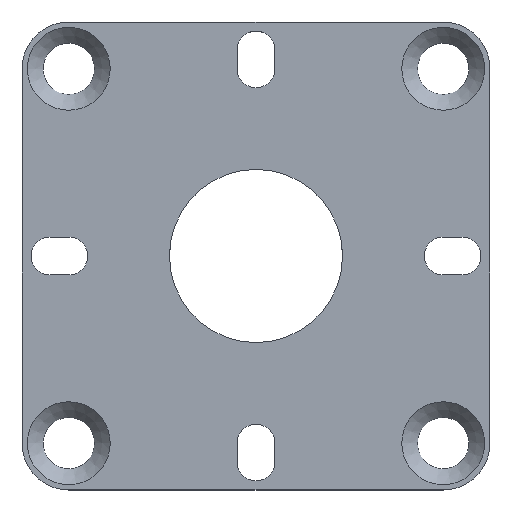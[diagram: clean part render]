
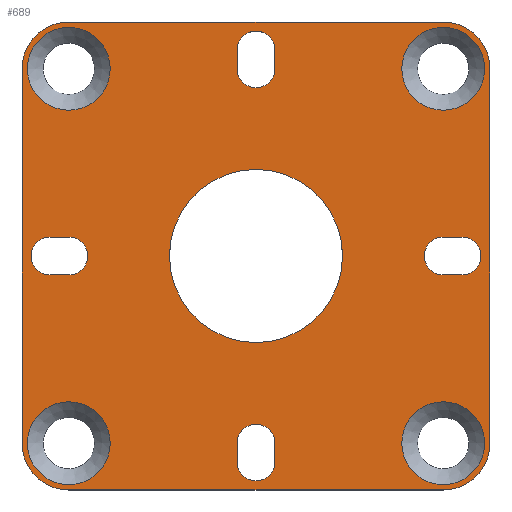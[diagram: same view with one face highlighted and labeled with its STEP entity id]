
A CAD part, top view. The second image highlights one B-rep face of the part: STEP entity #689.
In plain terms, the highlighted planar face has unit normal (0, 0, 1).
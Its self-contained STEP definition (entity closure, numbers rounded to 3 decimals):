
#28=FACE_BOUND('',#130,.T.);
#29=FACE_BOUND('',#131,.T.);
#30=FACE_BOUND('',#132,.T.);
#31=FACE_BOUND('',#133,.T.);
#32=FACE_BOUND('',#134,.T.);
#33=FACE_BOUND('',#135,.T.);
#34=FACE_BOUND('',#136,.T.);
#35=FACE_BOUND('',#137,.T.);
#36=FACE_BOUND('',#138,.T.);
#50=PLANE('',#785);
#85=FACE_OUTER_BOUND('',#129,.T.);
#129=EDGE_LOOP('',(#609,#610,#611,#612,#613,#614,#615,#616));
#130=EDGE_LOOP('',(#617));
#131=EDGE_LOOP('',(#618));
#132=EDGE_LOOP('',(#619));
#133=EDGE_LOOP('',(#620));
#134=EDGE_LOOP('',(#621,#622,#623,#624));
#135=EDGE_LOOP('',(#625,#626,#627,#628));
#136=EDGE_LOOP('',(#629,#630,#631,#632));
#137=EDGE_LOOP('',(#633,#634,#635,#636));
#138=EDGE_LOOP('',(#637));
#153=LINE('',#1059,#210);
#159=LINE('',#1074,#216);
#161=LINE('',#1080,#218);
#172=LINE('',#1121,#229);
#175=LINE('',#1128,#232);
#178=LINE('',#1137,#235);
#181=LINE('',#1144,#238);
#184=LINE('',#1153,#241);
#187=LINE('',#1160,#244);
#190=LINE('',#1169,#247);
#193=LINE('',#1176,#250);
#195=LINE('',#1182,#252);
#210=VECTOR('',#844,10.);
#216=VECTOR('',#860,10.);
#218=VECTOR('',#868,10.);
#229=VECTOR('',#917,10.);
#232=VECTOR('',#926,10.);
#235=VECTOR('',#935,10.);
#238=VECTOR('',#944,10.);
#241=VECTOR('',#953,10.);
#244=VECTOR('',#962,10.);
#247=VECTOR('',#971,10.);
#250=VECTOR('',#980,10.);
#252=VECTOR('',#988,10.);
#253=CIRCLE('',#714,10.);
#271=CIRCLE('',#735,10.);
#272=CIRCLE('',#737,10.);
#273=CIRCLE('',#740,10.);
#274=CIRCLE('',#743,8.85);
#276=CIRCLE('',#747,8.85);
#278=CIRCLE('',#751,8.85);
#280=CIRCLE('',#755,8.85);
#282=CIRCLE('',#759,4.05);
#283=CIRCLE('',#762,4.05);
#284=CIRCLE('',#765,4.05);
#285=CIRCLE('',#768,4.05);
#286=CIRCLE('',#771,4.05);
#287=CIRCLE('',#774,4.05);
#288=CIRCLE('',#777,4.05);
#289=CIRCLE('',#780,4.05);
#290=CIRCLE('',#783,18.5);
#291=VERTEX_POINT('',#993);
#292=VERTEX_POINT('',#994);
#322=VERTEX_POINT('',#1058);
#323=VERTEX_POINT('',#1062);
#324=VERTEX_POINT('',#1066);
#325=VERTEX_POINT('',#1067);
#326=VERTEX_POINT('',#1072);
#327=VERTEX_POINT('',#1076);
#328=VERTEX_POINT('',#1082);
#330=VERTEX_POINT('',#1090);
#332=VERTEX_POINT('',#1098);
#334=VERTEX_POINT('',#1106);
#336=VERTEX_POINT('',#1114);
#337=VERTEX_POINT('',#1116);
#338=VERTEX_POINT('',#1120);
#339=VERTEX_POINT('',#1124);
#340=VERTEX_POINT('',#1130);
#341=VERTEX_POINT('',#1132);
#342=VERTEX_POINT('',#1136);
#343=VERTEX_POINT('',#1140);
#344=VERTEX_POINT('',#1146);
#345=VERTEX_POINT('',#1148);
#346=VERTEX_POINT('',#1152);
#347=VERTEX_POINT('',#1156);
#348=VERTEX_POINT('',#1162);
#349=VERTEX_POINT('',#1164);
#350=VERTEX_POINT('',#1168);
#351=VERTEX_POINT('',#1172);
#352=VERTEX_POINT('',#1178);
#353=EDGE_CURVE('',#291,#292,#253,.T.);
#385=EDGE_CURVE('',#322,#292,#153,.T.);
#387=EDGE_CURVE('',#322,#323,#271,.T.);
#389=EDGE_CURVE('',#324,#325,#272,.T.);
#393=EDGE_CURVE('',#324,#326,#159,.T.);
#394=EDGE_CURVE('',#327,#326,#273,.T.);
#396=EDGE_CURVE('',#327,#323,#161,.T.);
#397=EDGE_CURVE('',#328,#328,#274,.T.);
#401=EDGE_CURVE('',#330,#330,#276,.T.);
#405=EDGE_CURVE('',#332,#332,#278,.T.);
#409=EDGE_CURVE('',#334,#334,#280,.T.);
#414=EDGE_CURVE('',#337,#336,#282,.T.);
#416=EDGE_CURVE('',#338,#337,#172,.T.);
#418=EDGE_CURVE('',#339,#338,#283,.T.);
#420=EDGE_CURVE('',#336,#339,#175,.T.);
#422=EDGE_CURVE('',#341,#340,#284,.T.);
#424=EDGE_CURVE('',#342,#341,#178,.T.);
#426=EDGE_CURVE('',#343,#342,#285,.T.);
#428=EDGE_CURVE('',#340,#343,#181,.T.);
#430=EDGE_CURVE('',#345,#344,#286,.T.);
#432=EDGE_CURVE('',#346,#345,#184,.T.);
#434=EDGE_CURVE('',#347,#346,#287,.T.);
#436=EDGE_CURVE('',#344,#347,#187,.T.);
#438=EDGE_CURVE('',#349,#348,#288,.T.);
#440=EDGE_CURVE('',#350,#349,#190,.T.);
#442=EDGE_CURVE('',#351,#350,#289,.T.);
#444=EDGE_CURVE('',#348,#351,#193,.T.);
#445=EDGE_CURVE('',#352,#352,#290,.T.);
#447=EDGE_CURVE('',#291,#325,#195,.T.);
#609=ORIENTED_EDGE('',*,*,#353,.F.);
#610=ORIENTED_EDGE('',*,*,#447,.T.);
#611=ORIENTED_EDGE('',*,*,#389,.F.);
#612=ORIENTED_EDGE('',*,*,#393,.T.);
#613=ORIENTED_EDGE('',*,*,#394,.F.);
#614=ORIENTED_EDGE('',*,*,#396,.T.);
#615=ORIENTED_EDGE('',*,*,#387,.F.);
#616=ORIENTED_EDGE('',*,*,#385,.T.);
#617=ORIENTED_EDGE('',*,*,#397,.T.);
#618=ORIENTED_EDGE('',*,*,#401,.T.);
#619=ORIENTED_EDGE('',*,*,#405,.T.);
#620=ORIENTED_EDGE('',*,*,#409,.T.);
#621=ORIENTED_EDGE('',*,*,#418,.T.);
#622=ORIENTED_EDGE('',*,*,#416,.T.);
#623=ORIENTED_EDGE('',*,*,#414,.T.);
#624=ORIENTED_EDGE('',*,*,#420,.T.);
#625=ORIENTED_EDGE('',*,*,#426,.T.);
#626=ORIENTED_EDGE('',*,*,#424,.T.);
#627=ORIENTED_EDGE('',*,*,#422,.T.);
#628=ORIENTED_EDGE('',*,*,#428,.T.);
#629=ORIENTED_EDGE('',*,*,#434,.T.);
#630=ORIENTED_EDGE('',*,*,#432,.T.);
#631=ORIENTED_EDGE('',*,*,#430,.T.);
#632=ORIENTED_EDGE('',*,*,#436,.T.);
#633=ORIENTED_EDGE('',*,*,#442,.T.);
#634=ORIENTED_EDGE('',*,*,#440,.T.);
#635=ORIENTED_EDGE('',*,*,#438,.T.);
#636=ORIENTED_EDGE('',*,*,#444,.T.);
#637=ORIENTED_EDGE('',*,*,#445,.T.);
#689=ADVANCED_FACE('',(#85,#28,#29,#30,#31,#32,#33,#34,#35,#36),#50,.T.);
#714=AXIS2_PLACEMENT_3D('',#995,#790,#791);
#735=AXIS2_PLACEMENT_3D('',#1063,#848,#849);
#737=AXIS2_PLACEMENT_3D('',#1068,#853,#854);
#740=AXIS2_PLACEMENT_3D('',#1077,#863,#864);
#743=AXIS2_PLACEMENT_3D('',#1083,#871,#872);
#747=AXIS2_PLACEMENT_3D('',#1091,#881,#882);
#751=AXIS2_PLACEMENT_3D('',#1099,#891,#892);
#755=AXIS2_PLACEMENT_3D('',#1107,#901,#902);
#759=AXIS2_PLACEMENT_3D('',#1117,#912,#913);
#762=AXIS2_PLACEMENT_3D('',#1125,#921,#922);
#765=AXIS2_PLACEMENT_3D('',#1133,#930,#931);
#768=AXIS2_PLACEMENT_3D('',#1141,#939,#940);
#771=AXIS2_PLACEMENT_3D('',#1149,#948,#949);
#774=AXIS2_PLACEMENT_3D('',#1157,#957,#958);
#777=AXIS2_PLACEMENT_3D('',#1165,#966,#967);
#780=AXIS2_PLACEMENT_3D('',#1173,#975,#976);
#783=AXIS2_PLACEMENT_3D('',#1179,#983,#984);
#785=AXIS2_PLACEMENT_3D('',#1183,#989,#990);
#790=DIRECTION('center_axis',(0.,0.,-1.));
#791=DIRECTION('ref_axis',(0.707,-0.707,0.));
#844=DIRECTION('',(1.,0.,0.));
#848=DIRECTION('center_axis',(0.,0.,-1.));
#849=DIRECTION('ref_axis',(-0.707,-0.707,0.));
#853=DIRECTION('center_axis',(0.,0.,-1.));
#854=DIRECTION('ref_axis',(0.707,0.707,0.));
#860=DIRECTION('',(-1.,0.,0.));
#863=DIRECTION('center_axis',(0.,0.,-1.));
#864=DIRECTION('ref_axis',(-0.707,0.707,0.));
#868=DIRECTION('',(0.,-1.,0.));
#871=DIRECTION('center_axis',(0.,0.,-1.));
#872=DIRECTION('ref_axis',(1.,0.,0.));
#881=DIRECTION('center_axis',(0.,0.,-1.));
#882=DIRECTION('ref_axis',(1.,0.,0.));
#891=DIRECTION('center_axis',(0.,0.,-1.));
#892=DIRECTION('ref_axis',(1.,0.,0.));
#901=DIRECTION('center_axis',(0.,0.,-1.));
#902=DIRECTION('ref_axis',(1.,0.,0.));
#912=DIRECTION('center_axis',(0.,0.,-1.));
#913=DIRECTION('ref_axis',(0.,-1.,0.));
#917=DIRECTION('',(1.,0.,0.));
#921=DIRECTION('center_axis',(0.,0.,-1.));
#922=DIRECTION('ref_axis',(0.,1.,0.));
#926=DIRECTION('',(-1.,0.,0.));
#930=DIRECTION('center_axis',(0.,0.,-1.));
#931=DIRECTION('ref_axis',(0.,1.,0.));
#935=DIRECTION('',(-1.,0.,0.));
#939=DIRECTION('center_axis',(0.,0.,-1.));
#940=DIRECTION('ref_axis',(0.,-1.,0.));
#944=DIRECTION('',(1.,0.,0.));
#948=DIRECTION('center_axis',(0.,0.,-1.));
#949=DIRECTION('ref_axis',(-1.,0.,0.));
#953=DIRECTION('',(0.,-1.,0.));
#957=DIRECTION('center_axis',(0.,0.,-1.));
#958=DIRECTION('ref_axis',(1.,0.,0.));
#962=DIRECTION('',(0.,1.,0.));
#966=DIRECTION('center_axis',(0.,0.,-1.));
#967=DIRECTION('ref_axis',(1.,0.,0.));
#971=DIRECTION('',(0.,1.,0.));
#975=DIRECTION('center_axis',(0.,0.,-1.));
#976=DIRECTION('ref_axis',(-1.,0.,0.));
#980=DIRECTION('',(0.,-1.,0.));
#983=DIRECTION('center_axis',(0.,0.,-1.));
#984=DIRECTION('ref_axis',(1.,0.,0.));
#988=DIRECTION('',(0.,1.,0.));
#989=DIRECTION('center_axis',(0.,0.,1.));
#990=DIRECTION('ref_axis',(1.,0.,0.));
#993=CARTESIAN_POINT('',(50.,-40.,2.));
#994=CARTESIAN_POINT('',(40.,-50.,2.));
#995=CARTESIAN_POINT('Origin',(40.,-40.,2.));
#1058=CARTESIAN_POINT('',(-40.,-50.,2.));
#1059=CARTESIAN_POINT('',(-50.,-50.,2.));
#1062=CARTESIAN_POINT('',(-50.,-40.,2.));
#1063=CARTESIAN_POINT('Origin',(-40.,-40.,2.));
#1066=CARTESIAN_POINT('',(40.,50.,2.));
#1067=CARTESIAN_POINT('',(50.,40.,2.));
#1068=CARTESIAN_POINT('Origin',(40.,40.,2.));
#1072=CARTESIAN_POINT('',(-40.,50.,2.));
#1074=CARTESIAN_POINT('',(50.,50.,2.));
#1076=CARTESIAN_POINT('',(-50.,40.,2.));
#1077=CARTESIAN_POINT('Origin',(-40.,40.,2.));
#1080=CARTESIAN_POINT('',(-50.,50.,2.));
#1082=CARTESIAN_POINT('',(31.15,-40.,2.));
#1083=CARTESIAN_POINT('Origin',(40.,-40.,2.));
#1090=CARTESIAN_POINT('',(-48.85,40.,2.));
#1091=CARTESIAN_POINT('Origin',(-40.,40.,2.));
#1098=CARTESIAN_POINT('',(31.15,40.,2.));
#1099=CARTESIAN_POINT('Origin',(40.,40.,2.));
#1106=CARTESIAN_POINT('',(-48.85,-40.,2.));
#1107=CARTESIAN_POINT('Origin',(-40.,-40.,2.));
#1114=CARTESIAN_POINT('',(-40.,-4.05,2.));
#1116=CARTESIAN_POINT('',(-40.,4.05,2.));
#1117=CARTESIAN_POINT('Origin',(-40.,0.,2.));
#1120=CARTESIAN_POINT('',(-44.,4.05,2.));
#1121=CARTESIAN_POINT('',(-22.,4.05,2.));
#1124=CARTESIAN_POINT('',(-44.,-4.05,2.));
#1125=CARTESIAN_POINT('Origin',(-44.,0.,2.));
#1128=CARTESIAN_POINT('',(-20.,-4.05,2.));
#1130=CARTESIAN_POINT('',(40.,4.05,2.));
#1132=CARTESIAN_POINT('',(40.,-4.05,2.));
#1133=CARTESIAN_POINT('Origin',(40.,0.,2.));
#1136=CARTESIAN_POINT('',(44.,-4.05,2.));
#1137=CARTESIAN_POINT('',(22.,-4.05,2.));
#1140=CARTESIAN_POINT('',(44.,4.05,2.));
#1141=CARTESIAN_POINT('Origin',(44.,0.,2.));
#1144=CARTESIAN_POINT('',(20.,4.05,2.));
#1146=CARTESIAN_POINT('',(-4.05,40.,2.));
#1148=CARTESIAN_POINT('',(4.05,40.,2.));
#1149=CARTESIAN_POINT('Origin',(0.,40.,2.));
#1152=CARTESIAN_POINT('',(4.05,44.,2.));
#1153=CARTESIAN_POINT('',(4.05,22.,2.));
#1156=CARTESIAN_POINT('',(-4.05,44.,2.));
#1157=CARTESIAN_POINT('Origin',(0.,44.,2.));
#1160=CARTESIAN_POINT('',(-4.05,20.,2.));
#1162=CARTESIAN_POINT('',(4.05,-40.,2.));
#1164=CARTESIAN_POINT('',(-4.05,-40.,2.));
#1165=CARTESIAN_POINT('Origin',(0.,-40.,2.));
#1168=CARTESIAN_POINT('',(-4.05,-44.,2.));
#1169=CARTESIAN_POINT('',(-4.05,-22.,2.));
#1172=CARTESIAN_POINT('',(4.05,-44.,2.));
#1173=CARTESIAN_POINT('Origin',(0.,-44.,2.));
#1176=CARTESIAN_POINT('',(4.05,-20.,2.));
#1178=CARTESIAN_POINT('',(-18.5,0.,2.));
#1179=CARTESIAN_POINT('Origin',(0.,0.,2.));
#1182=CARTESIAN_POINT('',(50.,-50.,2.));
#1183=CARTESIAN_POINT('Origin',(0.,0.,2.));
